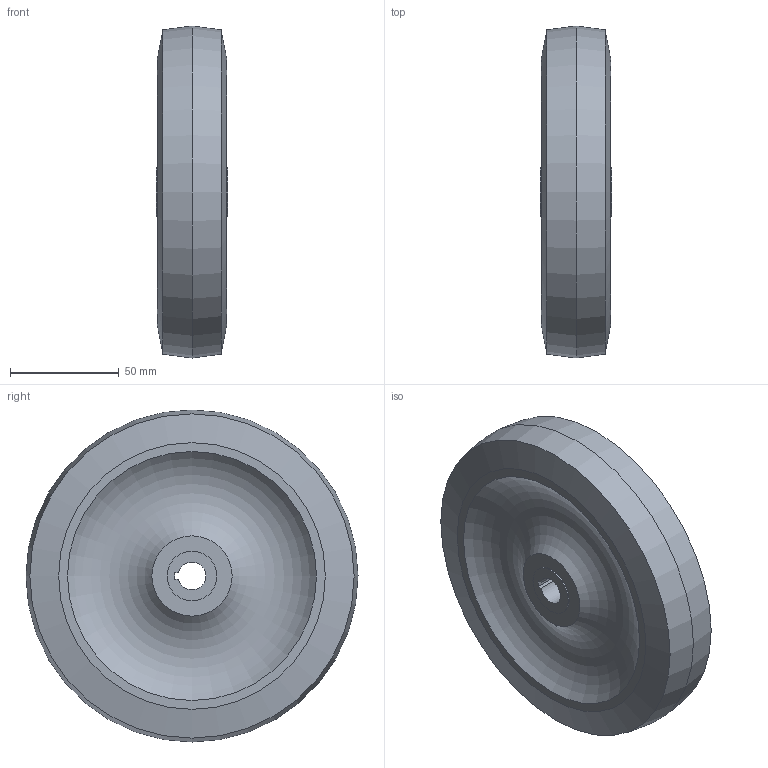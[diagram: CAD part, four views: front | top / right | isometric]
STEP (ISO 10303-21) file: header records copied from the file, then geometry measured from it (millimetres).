
FILE_DESCRIPTION(/* description */ ('Alibre Inc.'),/* implementation_level */ '2;1');
FILE_NAME(/* name */ 'export0',/* time_stamp */ '2013-12-04T22:55:50-05:00',/* author */ (''),/* organization */ (''),/* preprocessor_version */ 'ST-DEVELOPER v14',/* originating_system */ 'Alibre',/* authorisation */ '');
FILE_SCHEMA (('AUTOMOTIVE_DESIGN'));
Length unit declared in the file: centimetre
Bounding box: 33.02 x 152.4 x 152.4 mm (x, y, z)
Volume: 433901 mm3; surface area: 51393.4 mm2
Topology: 1 solids, 1 shells, 18 faces, 33 edges, 21 vertices
Faces by surface type: plane 9, cone 4, cylinder 3, torus 2
Full cylindrical faces by diameter (mm): 22.86 x2
Entity records: 416 total; most frequent: DIRECTION 65, CARTESIAN_POINT 64, ORIENTED_EDGE 50, AXIS2_PLACEMENT_3D 33, EDGE_LOOP 32, FACE_BOUND 32, EDGE_CURVE 25, VERTEX_POINT 21
